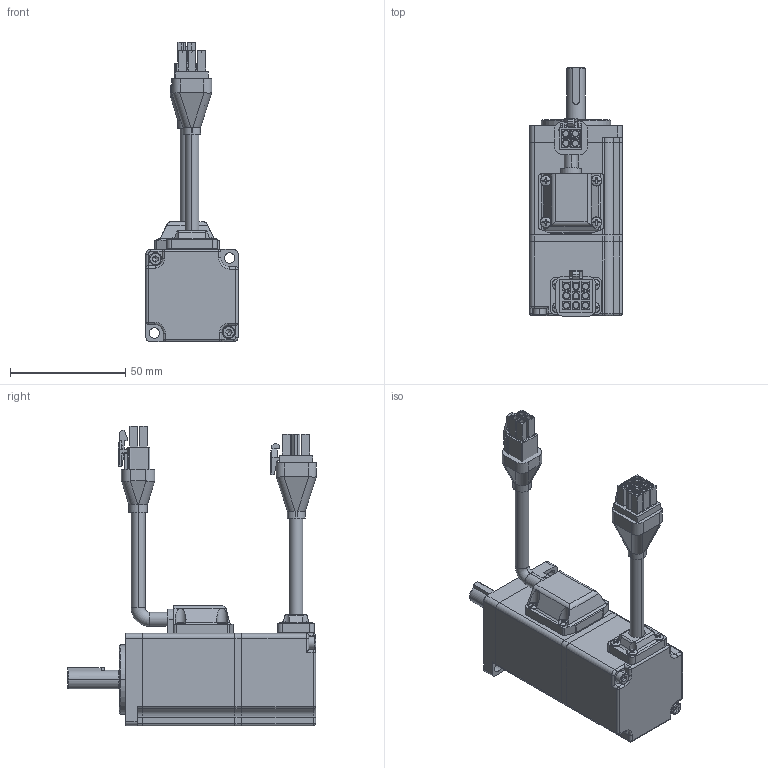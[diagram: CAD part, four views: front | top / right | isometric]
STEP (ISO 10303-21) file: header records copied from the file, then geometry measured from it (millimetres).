
FILE_DESCRIPTION((''),'2;1');
FILE_NAME('R40-50W_ASM','2018-11-26T',('JIANGFEI6'),(''),'CREO PARAMETRIC BY PTC INC, 2015480','CREO PARAMETRIC BY PTC INC, 2015480','');
FILE_SCHEMA(('CONFIG_CONTROL_DESIGN'));
Length unit declared in the file: millimetre
Products named in the file (20): __-2087; _____-5819; ______-7593; _____-14857; M2_5X5; ______-16601; ___-18669; M3X10; ____; __-24117; ______-26585; ________; ______-32745; _______; M3X28; ___-36193; ___-37449; ROLLING_BEARINGS_609_GB_276-94; R40_; R40-50W_ASM
Assembly tree (28 placements, depth 2):
  R40-50W_ASM
    __-2087
    _____-5819
    ______-7593
    _____-14857
    M2_5X5  x8
    ______-16601
    ___-18669
    M3X10  x2
    ____
    __-24117
    ______-26585
    ________
    ______-32745
    _______
    M3X28  x2
    ___-36193
    ___-37449
    ROLLING_BEARINGS_609_GB_276-94
    R40_
Bounding box: 40 x 107.86 x 129.8 mm (x, y, z)
Volume: 41668.7 mm3; surface area: 59041.4 mm2
Topology: 25 solids, 52 shells, 1346 faces, 3807 edges, 2479 vertices
Faces by surface type: plane 627, cylinder 488, torus 90, cone 85, sphere 54, bspline 2
Entity records: 38759 total; most frequent: CARTESIAN_POINT 9175, DIRECTION 6112, ORIENTED_EDGE 5899, EDGE_CURVE 3163, AXIS2_PLACEMENT_3D 2194, VERTEX_POINT 2105, VECTOR 1724, LINE 1724
